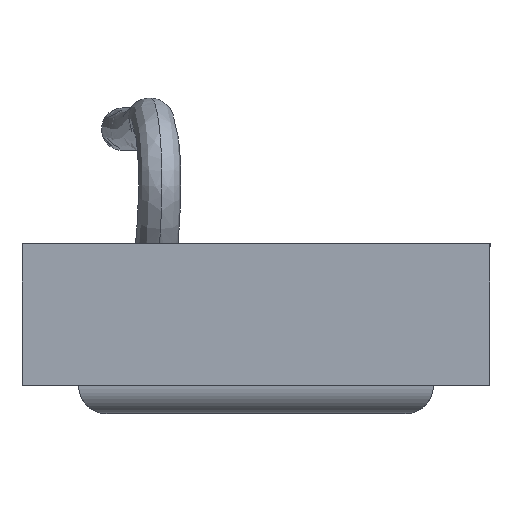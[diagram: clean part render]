
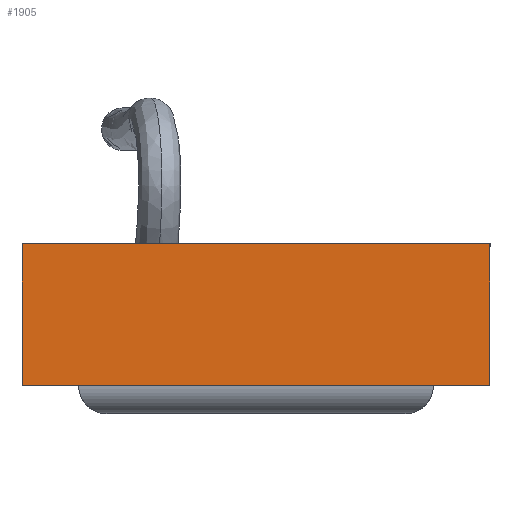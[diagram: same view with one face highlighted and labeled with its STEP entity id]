
A CAD part, left-side view. The second image highlights one B-rep face of the part: STEP entity #1905.
In plain terms, the highlighted planar face has unit normal (-1, 0, 0).
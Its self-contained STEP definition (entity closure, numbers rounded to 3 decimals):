
#2 = EDGE_CURVE ( 'NONE', #859, #1071, #727, .T. ) ;
#65 = CARTESIAN_POINT ( 'NONE',  ( -55., -16.5, -5. ) ) ;
#152 = CARTESIAN_POINT ( 'NONE',  ( -55., -16.5, 5. ) ) ;
#174 = LINE ( 'NONE', #879, #1714 ) ;
#201 = VECTOR ( 'NONE', #2232, 1000. ) ;
#391 = LINE ( 'NONE', #152, #2498 ) ;
#393 = PLANE ( 'NONE',  #1885 ) ;
#570 = VERTEX_POINT ( 'NONE', #65 ) ;
#600 = CARTESIAN_POINT ( 'NONE',  ( -55., 0., 5. ) ) ;
#688 = ORIENTED_EDGE ( 'NONE', *, *, #740, .T. ) ;
#727 = LINE ( 'NONE', #2506, #2428 ) ;
#740 = EDGE_CURVE ( 'NONE', #859, #2237, #174, .T. ) ;
#797 = LINE ( 'NONE', #2626, #201 ) ;
#859 = VERTEX_POINT ( 'NONE', #1698 ) ;
#879 = CARTESIAN_POINT ( 'NONE',  ( -55., 16.5, 5. ) ) ;
#979 = CARTESIAN_POINT ( 'NONE',  ( -55., 16.5, -5. ) ) ;
#1071 = VERTEX_POINT ( 'NONE', #2574 ) ;
#1178 = DIRECTION ( 'NONE',  ( 0., 0., -1. ) ) ;
#1280 = DIRECTION ( 'NONE',  ( 0., -1., 0. ) ) ;
#1333 = FACE_OUTER_BOUND ( 'NONE', #2621, .T. ) ;
#1563 = ORIENTED_EDGE ( 'NONE', *, *, #1947, .T. ) ;
#1612 = DIRECTION ( 'NONE',  ( 1., 0., 0. ) ) ;
#1698 = CARTESIAN_POINT ( 'NONE',  ( -55., 16.5, 5. ) ) ;
#1714 = VECTOR ( 'NONE', #2082, 1000. ) ;
#1820 = DIRECTION ( 'NONE',  ( 0., 0., -1. ) ) ;
#1885 = AXIS2_PLACEMENT_3D ( 'NONE', #600, #1612, #1178 ) ;
#1900 = EDGE_CURVE ( 'NONE', #1071, #570, #391, .T. ) ;
#1905 = ADVANCED_FACE ( 'NONE', ( #1333 ), #393, .F. ) ;
#1947 = EDGE_CURVE ( 'NONE', #2237, #570, #797, .T. ) ;
#2005 = ORIENTED_EDGE ( 'NONE', *, *, #2, .F. ) ;
#2044 = ORIENTED_EDGE ( 'NONE', *, *, #1900, .F. ) ;
#2082 = DIRECTION ( 'NONE',  ( 0., 0., -1. ) ) ;
#2232 = DIRECTION ( 'NONE',  ( 0., -1., 0. ) ) ;
#2237 = VERTEX_POINT ( 'NONE', #979 ) ;
#2428 = VECTOR ( 'NONE', #1280, 1000. ) ;
#2498 = VECTOR ( 'NONE', #1820, 1000. ) ;
#2506 = CARTESIAN_POINT ( 'NONE',  ( -55., 0., 5. ) ) ;
#2574 = CARTESIAN_POINT ( 'NONE',  ( -55., -16.5, 5. ) ) ;
#2621 = EDGE_LOOP ( 'NONE', ( #1563, #2044, #2005, #688 ) ) ;
#2626 = CARTESIAN_POINT ( 'NONE',  ( -55., 0., -5. ) ) ;
